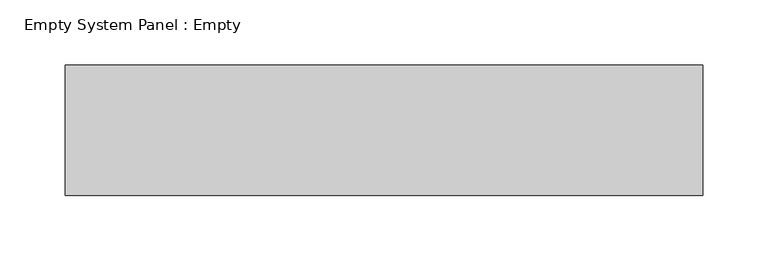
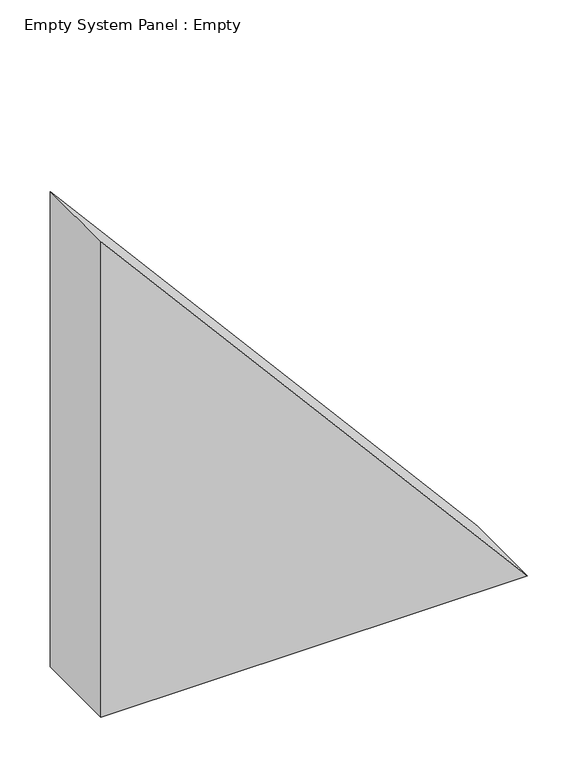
"""IFC4 building model written with IfcOpenShell, lengths in millimetres: plate geometry, Empty System Panel : Empty."""

from ifc_helpers import new_model, si_unit, frame, origin, place, context, project, spatial, polyline, outline, extrude, source, transform, mapped, element, save


def empty_system_panel_empty_d42d5945(model_context):
    return source(origin(), model_context, "Body", "SweptSolid", [
        extrude(outline(polyline([(0.0, -244.158987), (0.0, 244.158987), (575.7931568, -244.158987), (0.0, -244.158987)])), frame((0.0, -50.0, 0.0), z_axis=(0.0, 1.0, 0.0), x_axis=(0.0, 0.0, 1.0)), (0.0, 0.0, 1.0), 100.0),
    ])


if __name__ == "__main__":
    model = new_model("IFC4")
    model_context = context("Model", 3, world=origin())
    ifc_project = project(units=[si_unit("LENGTHUNIT", "METRE", prefix="MILLI")], contexts=[model_context])
    site = spatial("IfcSite", under=ifc_project)
    building = spatial("IfcBuilding", under=site)
    placement = place(None, origin())
    empty_system_panel_empty_shape = empty_system_panel_empty_d42d5945(model_context)
    element("IfcPlate", 1, ObjectType="Empty System Panel : Empty", at=placement, inside=building, context=model_context, shape_type="MappedRepresentation", body=[
        mapped(empty_system_panel_empty_shape, transform((0.0, 0.0, 0.0), x_axis=(1.0, 0.0, 0.0), y_axis=(0.0, 1.0, 0.0), z_axis=(0.0, 0.0, 1.0))),
    ])
    save(model, "model.ifc")
